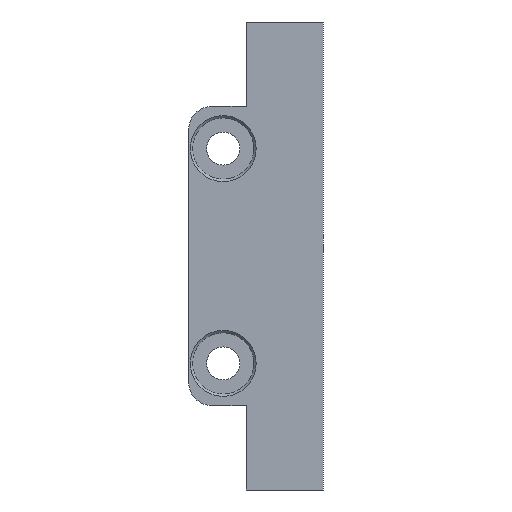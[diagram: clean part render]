
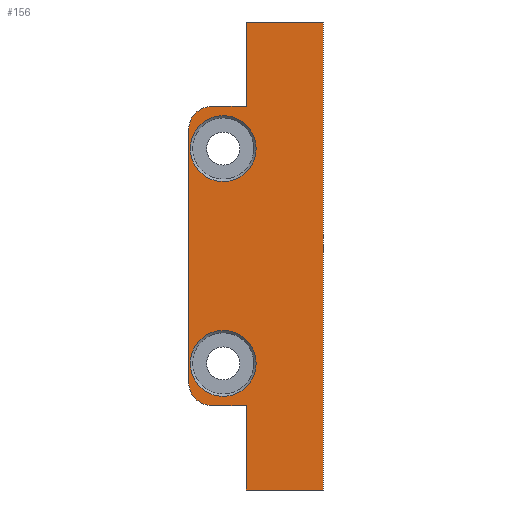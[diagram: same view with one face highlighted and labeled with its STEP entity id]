
A CAD part, left-side view. The second image highlights one B-rep face of the part: STEP entity #156.
In plain terms, the highlighted planar face has unit normal (-1, 0, 0).
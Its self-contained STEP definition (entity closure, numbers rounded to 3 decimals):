
#113=FACE_BOUND('',#212,.T.);
#114=FACE_BOUND('',#213,.T.);
#115=FACE_BOUND('',#214,.T.);
#139=CIRCLE('',#531,4.3);
#140=CIRCLE('',#532,4.3);
#141=CIRCLE('',#533,3.);
#142=CIRCLE('',#534,3.);
#156=ADVANCED_FACE('',(#113,#114,#115),#182,.F.);
#182=PLANE('',#535);
#212=EDGE_LOOP('',(#259));
#213=EDGE_LOOP('',(#260));
#214=EDGE_LOOP('',(#261,#262,#263,#264,#265,#266,#267,#268,#269,#270));
#259=ORIENTED_EDGE('',*,*,#407,.T.);
#260=ORIENTED_EDGE('',*,*,#408,.T.);
#261=ORIENTED_EDGE('',*,*,#409,.T.);
#262=ORIENTED_EDGE('',*,*,#410,.T.);
#263=ORIENTED_EDGE('',*,*,#411,.T.);
#264=ORIENTED_EDGE('',*,*,#412,.T.);
#265=ORIENTED_EDGE('',*,*,#406,.T.);
#266=ORIENTED_EDGE('',*,*,#413,.T.);
#267=ORIENTED_EDGE('',*,*,#414,.T.);
#268=ORIENTED_EDGE('',*,*,#415,.T.);
#269=ORIENTED_EDGE('',*,*,#416,.T.);
#270=ORIENTED_EDGE('',*,*,#417,.T.);
#360=VERTEX_POINT('',#699);
#366=VERTEX_POINT('',#711);
#367=VERTEX_POINT('',#715);
#368=VERTEX_POINT('',#717);
#369=VERTEX_POINT('',#719);
#370=VERTEX_POINT('',#720);
#371=VERTEX_POINT('',#722);
#372=VERTEX_POINT('',#724);
#373=VERTEX_POINT('',#727);
#374=VERTEX_POINT('',#729);
#375=VERTEX_POINT('',#731);
#376=VERTEX_POINT('',#733);
#406=EDGE_CURVE('',#360,#366,#460,.T.);
#407=EDGE_CURVE('',#367,#367,#139,.T.);
#408=EDGE_CURVE('',#368,#368,#140,.T.);
#409=EDGE_CURVE('',#369,#370,#461,.T.);
#410=EDGE_CURVE('',#370,#371,#141,.T.);
#411=EDGE_CURVE('',#371,#372,#462,.T.);
#412=EDGE_CURVE('',#372,#360,#463,.T.);
#413=EDGE_CURVE('',#366,#373,#464,.T.);
#414=EDGE_CURVE('',#373,#374,#465,.T.);
#415=EDGE_CURVE('',#374,#375,#466,.T.);
#416=EDGE_CURVE('',#375,#376,#467,.T.);
#417=EDGE_CURVE('',#376,#369,#142,.T.);
#460=LINE('',#712,#498);
#461=LINE('',#718,#499);
#462=LINE('',#723,#500);
#463=LINE('',#725,#501);
#464=LINE('',#726,#502);
#465=LINE('',#728,#503);
#466=LINE('',#730,#504);
#467=LINE('',#732,#505);
#498=VECTOR('',#581,1.);
#499=VECTOR('',#588,1.);
#500=VECTOR('',#591,1.);
#501=VECTOR('',#592,1.);
#502=VECTOR('',#593,1.);
#503=VECTOR('',#594,1.);
#504=VECTOR('',#595,1.);
#505=VECTOR('',#596,1.);
#531=AXIS2_PLACEMENT_3D('',#714,#584,#585);
#532=AXIS2_PLACEMENT_3D('',#716,#586,#587);
#533=AXIS2_PLACEMENT_3D('',#721,#589,#590);
#534=AXIS2_PLACEMENT_3D('',#734,#597,#598);
#535=AXIS2_PLACEMENT_3D('',#735,#599,#600);
#581=DIRECTION('',(0.,-1.,0.));
#584=DIRECTION('',(1.,0.,0.));
#585=DIRECTION('',(0.,0.,-1.));
#586=DIRECTION('',(1.,0.,0.));
#587=DIRECTION('',(0.,0.,-1.));
#588=DIRECTION('',(0.,0.,-1.));
#589=DIRECTION('',(-1.,0.,0.));
#590=DIRECTION('',(0.,0.,-1.));
#591=DIRECTION('',(0.,-1.,0.));
#592=DIRECTION('',(0.,0.,-1.));
#593=DIRECTION('',(0.,0.,1.));
#594=DIRECTION('',(0.,1.,0.));
#595=DIRECTION('',(0.,0.,-1.));
#596=DIRECTION('',(0.,1.,0.));
#597=DIRECTION('',(-1.,0.,0.));
#598=DIRECTION('',(0.,0.,-1.));
#599=DIRECTION('',(1.,0.,0.));
#600=DIRECTION('',(0.,0.,-1.));
#699=CARTESIAN_POINT('',(763.,39.475,-368.792));
#711=CARTESIAN_POINT('',(763.,29.427,-368.792));
#712=CARTESIAN_POINT('',(763.,39.475,-368.792));
#714=CARTESIAN_POINT('',(763.,42.475,-352.292));
#715=CARTESIAN_POINT('',(763.,42.475,-356.592));
#716=CARTESIAN_POINT('',(763.,42.475,-324.292));
#717=CARTESIAN_POINT('',(763.,42.475,-328.592));
#718=CARTESIAN_POINT('',(763.,46.975,-318.292));
#719=CARTESIAN_POINT('',(763.,46.975,-321.792));
#720=CARTESIAN_POINT('',(763.,46.975,-354.792));
#721=CARTESIAN_POINT('',(763.,43.975,-354.792));
#722=CARTESIAN_POINT('',(763.,43.975,-357.792));
#723=CARTESIAN_POINT('',(763.,47.475,-357.792));
#724=CARTESIAN_POINT('',(763.,39.475,-357.792));
#725=CARTESIAN_POINT('',(763.,39.475,-358.292));
#726=CARTESIAN_POINT('',(763.,29.427,-368.792));
#727=CARTESIAN_POINT('',(763.,29.427,-307.792));
#728=CARTESIAN_POINT('',(763.,29.427,-307.792));
#729=CARTESIAN_POINT('',(763.,39.475,-307.792));
#730=CARTESIAN_POINT('',(763.,39.475,-307.792));
#731=CARTESIAN_POINT('',(763.,39.475,-318.792));
#732=CARTESIAN_POINT('',(763.,39.475,-318.792));
#733=CARTESIAN_POINT('',(763.,43.975,-318.792));
#734=CARTESIAN_POINT('',(763.,43.975,-321.792));
#735=CARTESIAN_POINT('',(763.,83.452,-388.723));
